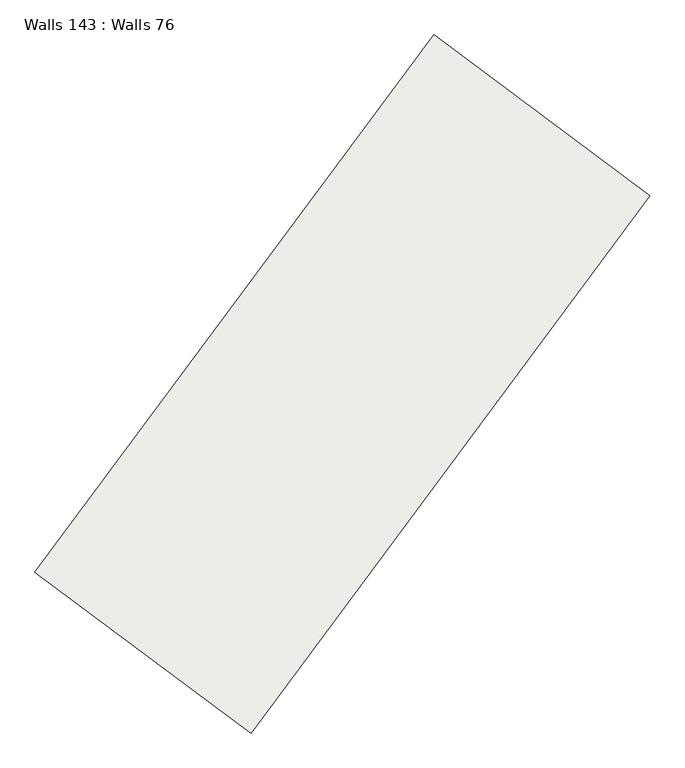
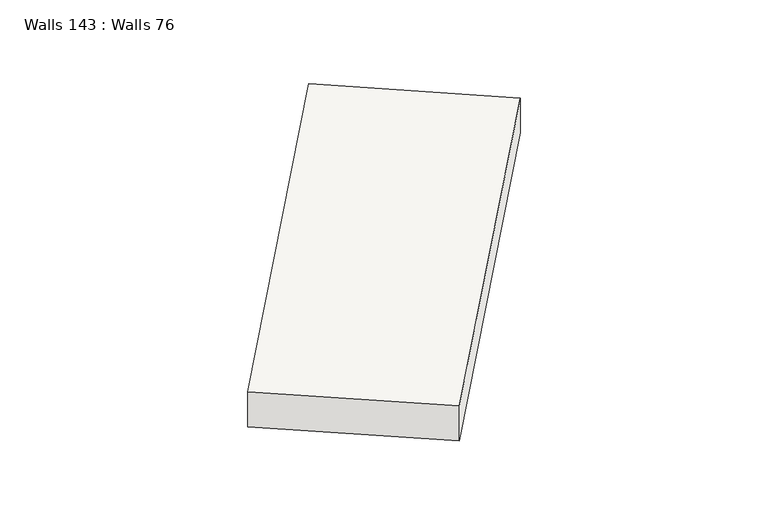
"""IFC4 building model written with IfcOpenShell, lengths in millimetres: slab geometry, Walls 143 : Walls 76."""

from ifc_helpers import new_model, si_unit, origin, place, context, project, spatial, faceted_brep, source, transform, mapped, element, save


def walls_143_walls_76_8c4789bb(model_context):
    return source(origin(), model_context, "Body", "Brep", [
        faceted_brep([(73274.8872249, -73155.2586521, 639380.0), (73274.8872249, -73155.2586521, 640080.0), (76084.4133187, -75242.4968102, 640080.0), (76084.4133187, -75242.4968102, 639380.0), (68086.6744541, -80138.9012533, 639250.0), (70896.2005479, -82226.1394114, 639250.0), (70896.2005479, -82226.1394114, 639950.0), (68086.6744541, -80138.9012533, 639950.0)], [[[0, 1, 2, 3]], [[4, 5, 6, 7]], [[5, 4, 0, 3]], [[4, 7, 1, 0]], [[7, 6, 2, 1]], [[6, 5, 3, 2]]]),
    ])


if __name__ == "__main__":
    model = new_model("IFC4")
    model_context = context("Model", 3, world=origin())
    ifc_project = project(units=[si_unit("LENGTHUNIT", "METRE", prefix="MILLI")], contexts=[model_context])
    site = spatial("IfcSite", under=ifc_project)
    building = spatial("IfcBuilding", under=site)
    placement = place(None, origin())
    walls_143_walls_76_shape = walls_143_walls_76_8c4789bb(model_context)
    element("IfcSlab", 1, ObjectType="Walls 143 : Walls 76", at=placement, inside=building, context=model_context, shape_type="MappedRepresentation", body=[
        mapped(walls_143_walls_76_shape, transform((0.0, 0.0, 0.0), x_axis=(1.0, 0.0, 0.0), y_axis=(0.0, 1.0, 0.0), z_axis=(0.0, 0.0, 1.0))),
    ])
    save(model, "model.ifc")
